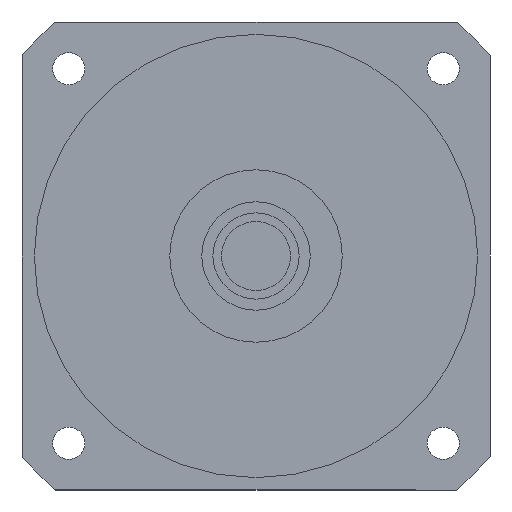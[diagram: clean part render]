
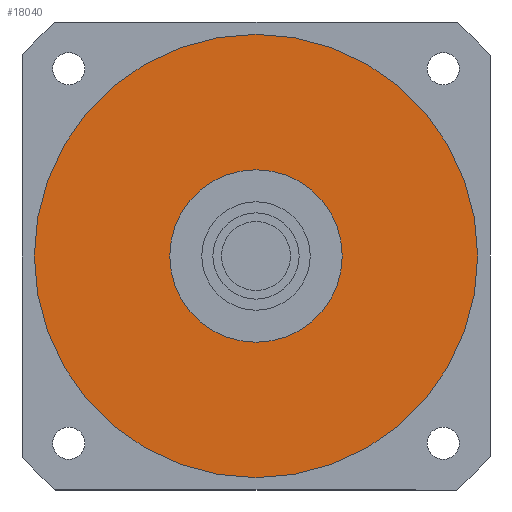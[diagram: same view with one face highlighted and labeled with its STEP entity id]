
A CAD part, left-side view. The second image highlights one B-rep face of the part: STEP entity #18040.
In plain terms, the highlighted planar face has unit normal (-1, 0, 0) as drawn and (0, 0, -1) by its records, which use the part's own axes.
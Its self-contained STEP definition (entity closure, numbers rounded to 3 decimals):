
#17460=CARTESIAN_POINT('',(90.,0.,-80.2));
#17470=VERTEX_POINT('',#17460);
#17560=CARTESIAN_POINT('',(-90.,0.,-80.2));
#17570=VERTEX_POINT('',#17560);
#17600=CARTESIAN_POINT('',(0.,0.,
-80.2));
#17610=DIRECTION('',(0.,0.,1.));
#17620=DIRECTION('',(0.,1.,0.));
#17630=AXIS2_PLACEMENT_3D('',#17600,#17610,#17620);
#17640=CIRCLE('',#17630,90.);
#17650=CARTESIAN_POINT('',(0.,90.,-80.2));
#17660=VERTEX_POINT('',#17650);
#17670=EDGE_CURVE('',#17660,#17570,#17640,.T.);
#17690=EDGE_CURVE('',#17470,#17660,#17640,.T.);
#17740=CARTESIAN_POINT('',(0.,0.,
-80.2));
#17750=DIRECTION('',(0.,0.,1.));
#17760=DIRECTION('',(-1.,0.,0.));
#17770=AXIS2_PLACEMENT_3D('',#17740,#17750,#17760);
#17780=PLANE('',#17770);
#17790=CARTESIAN_POINT('',(0.,0.,
-80.2));
#17800=DIRECTION('',(0.,0.,1.));
#17810=DIRECTION('',(0.,1.,0.));
#17820=AXIS2_PLACEMENT_3D('',#17790,#17800,#17810);
#17830=CIRCLE('',#17820,35.);
#17840=CARTESIAN_POINT('',(-35.,0.,-80.2));
#17850=VERTEX_POINT('',#17840);
#17860=CARTESIAN_POINT('',(35.,0.,-80.2));
#17870=VERTEX_POINT('',#17860);
#17880=EDGE_CURVE('',#17850,#17870,#17830,.T.);
#17890=ORIENTED_EDGE('',*,*,#17880,.T.);
#17900=CARTESIAN_POINT('',(0.,35.,-80.2));
#17910=VERTEX_POINT('',#17900);
#17920=EDGE_CURVE('',#17910,#17850,#17830,.T.);
#17930=ORIENTED_EDGE('',*,*,#17920,.T.);
#17940=EDGE_CURVE('',#17870,#17910,#17830,.T.);
#17950=ORIENTED_EDGE('',*,*,#17940,.T.);
#17960=EDGE_LOOP('',(#17950,#17930,#17890));
#17970=FACE_BOUND('',#17960,.T.);
#17980=ORIENTED_EDGE('',*,*,#17670,.F.);
#17990=EDGE_CURVE('',#17570,#17470,#17640,.T.);
#18000=ORIENTED_EDGE('',*,*,#17990,.F.);
#18010=ORIENTED_EDGE('',*,*,#17690,.F.);
#18020=EDGE_LOOP('',(#18010,#18000,#17980));
#18030=FACE_OUTER_BOUND('',#18020,.T.);
#18040=ADVANCED_FACE('',(#17970,#18030),#17780,.F.);
